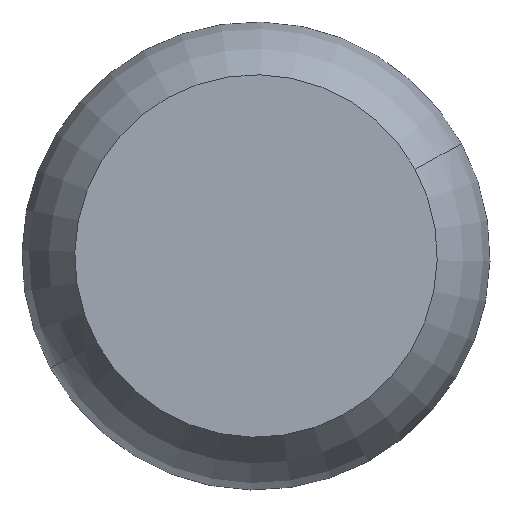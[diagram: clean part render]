
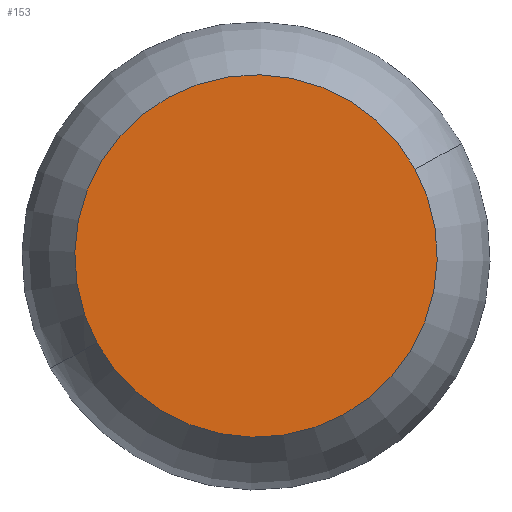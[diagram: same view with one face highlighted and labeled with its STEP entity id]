
A CAD part, front view. The second image highlights one B-rep face of the part: STEP entity #153.
In plain terms, the highlighted planar face has unit normal (0, -1, 0).
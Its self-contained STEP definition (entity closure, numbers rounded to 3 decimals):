
#66=CARTESIAN_POINT('Axis2P3D Location',(0.,0.,0.)) ;
#70=CARTESIAN_POINT('Vertex',(100.922,0.,55.134)) ;
#72=CARTESIAN_POINT('Vertex',(-100.922,0.,-55.134)) ;
#127=CARTESIAN_POINT('Axis2P3D Location',(0.,0.,0.)) ;
#144=CARTESIAN_POINT('Axis2P3D Location',(0.,0.,0.)) ;
#67=DIRECTION('Axis2P3D Direction',(0.,-1.,0.)) ;
#128=DIRECTION('Axis2P3D Direction',(0.,-1.,0.)) ;
#145=DIRECTION('Axis2P3D Direction',(0.,-1.,0.)) ;
#146=DIRECTION('Axis2P3D XDirection',(1.,0.,0.)) ;
#68=AXIS2_PLACEMENT_3D('Circle Axis2P3D',#66,#67,$) ;
#129=AXIS2_PLACEMENT_3D('Circle Axis2P3D',#127,#128,$) ;
#147=AXIS2_PLACEMENT_3D('Plane Axis2P3D',#144,#145,#146) ;
#150=ORIENTED_EDGE('',*,*,#74,.T.) ;
#151=ORIENTED_EDGE('',*,*,#131,.T.) ;
#153=ADVANCED_FACE('PartBody',(#152),#148,.T.) ;
#69=CIRCLE('generated circle',#68,115.) ;
#130=CIRCLE('generated circle',#129,115.) ;
#74=EDGE_CURVE('',#71,#73,#69,.T.) ;
#131=EDGE_CURVE('',#73,#71,#130,.T.) ;
#149=EDGE_LOOP('',(#150,#151)) ;
#152=FACE_OUTER_BOUND('',#149,.T.) ;
#148=PLANE('',#147) ;
#71=VERTEX_POINT('',#70) ;
#73=VERTEX_POINT('',#72) ;
